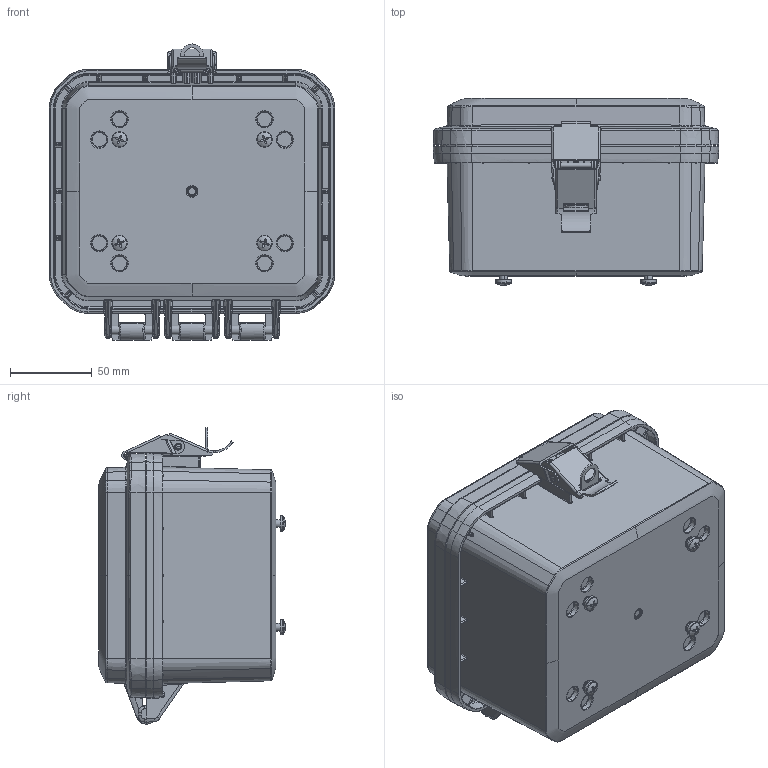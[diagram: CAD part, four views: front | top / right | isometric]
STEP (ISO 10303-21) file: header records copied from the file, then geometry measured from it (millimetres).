
FILE_DESCRIPTION (( 'STEP AP214' ), '1' );
FILE_NAME ('HP-060504-14.STEP', '2024-03-13T11:05:20', ( '' ), ( '' ), 'SwSTEP 2.0', 'SolidWorks 2024', '' );
FILE_SCHEMA (( 'AUTOMOTIVE_DESIGN' ));
Length unit declared in the file: inch
Products named in the file (15): HP-06051CG_HP-06051CG-02; HP-0605xBI_HP-06053BI-00; ZH-01L3; ZH-01L; LABEL-105; HP-060504-14; HP-06051C_HP-06051C-02; SCREWS-049_SCREWS-049; INSERTS-4; HP-0605xB_HP-06053B-00; ZH-01L1; ZH-01L4; ZH-01L5; ZH-01L2; HP-0605G
Assembly tree (20 placements, depth 3):
  HP-060504-14
    HP-0605xBI_HP-06053BI-00
      HP-0605xB_HP-06053B-00
      LABEL-105
      INSERTS-4  x4
    HP-06051CG_HP-06051CG-02
      HP-06051C_HP-06051C-02
      HP-0605G
    ZH-01L
      ZH-01L1
      ZH-01L2
      ZH-01L3
      ZH-01L4
      ZH-01L5
    SCREWS-049_SCREWS-049  x4
Bounding box: 175.01 x 114.64 x 181.57 mm (x, y, z)
Volume: 434925.8 mm3; surface area: 281285.6 mm2
Topology: 17 solids, 17 shells, 4282 faces, 10219 edges, 5918 vertices
Faces by surface type: bspline 1498, cylinder 937, plane 901, torus 480, cone 318, sphere 148
Entity records: 169247 total; most frequent: CARTESIAN_POINT 89742, ORIENTED_EDGE 18600, DIRECTION 14201, EDGE_CURVE 9300, AXIS2_PLACEMENT_3D 5859, VERTEX_POINT 5375, EDGE_LOOP 4035, ADVANCED_FACE 3973
